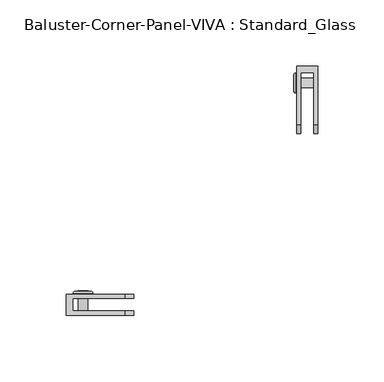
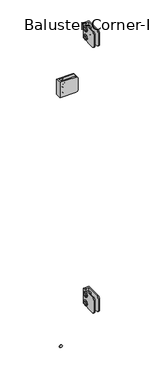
"""IFC4 building model written with IfcOpenShell, lengths in millimetres: railing geometry, Baluster-Corner-Panel-VIVA : Standard_Glass."""

from ifc_helpers import new_model, si_unit, point, frame, origin, place, context, project, spatial, polyline, circle_curve, ellipse_curve, trimmed, outline, extrude, source, transform, mapped, element, save
from ifc_brep_helpers import plane_surface, cylinder_surface, revolved_surface, advanced_brep


def baluster_corner_panel_viva_standard_glass_2aee224f(model_context):
    return source(origin(), model_context, "Body", "SolidModel", [
        extrude(outline(polyline([(139.7205182, 917.178125), (137.673554, 913.6326791), (133.5796257, 913.6326791), (131.5326616, 917.178125), (133.5796257, 920.7235709), (137.673554, 920.7235709), (139.7205182, 917.178125)])), frame((21.7024185, 0.0, 0.0), z_axis=(1.0, 0.0, 0.0), x_axis=(0.0, 1.0, 0.0)), (0.0, 0.0, 1.0), 1.4969696),
        advanced_brep(
        [(36.7665, 139.1720358, 917.178125), (36.7665, 132.081144, 917.178125), (24.0665, 132.081144, 917.178125), (24.0665, 139.1720358, 917.178125), (24.0665, 128.2188008, 917.178125), (24.0665, 143.034379, 917.178125), (23.199388, 137.2826653, 917.178125), (23.199388, 133.9705145, 917.178125), (36.7665, 133.9705145, 917.178125), (36.7665, 137.2826653, 917.178125), (23.2316551, 143.034379, 917.178125), (23.2316551, 128.2188008, 917.178125), (21.9503831, 129.5000728, 917.178125), (21.9503831, 141.7531069, 917.178125), (21.9503831, 131.3279943, 917.178125), (21.9503831, 139.9251854, 917.178125), (23.199388, 131.3279943, 917.178125), (23.199388, 139.9251854, 917.178125)],
        [
            (0, 1, circle_curve(frame((36.7665, 135.6265899, 917.178125), z_axis=(-1.0, 0.0, 0.0), x_axis=(0.0, -1.0, 0.0)), 3.5454459)),
            (1, 2),
            (2, 3, circle_curve(frame((24.0665, 135.6265899, 917.178125), z_axis=(1.0, 0.0, 0.0), x_axis=(0.0, -1.0, 0.0)), 3.5454459)),
            (3, 0),
            (1, 0, circle_curve(frame((36.7665, 135.6265899, 917.178125), z_axis=(-1.0, 0.0, 0.0), x_axis=(0.0, -1.0, 0.0)), 3.5454459)),
            (3, 2, circle_curve(frame((24.0665, 135.6265899, 917.178125), z_axis=(1.0, 0.0, 0.0), x_axis=(0.0, -1.0, 0.0)), 3.5454459)),
            (2, 4),
            (4, 5, circle_curve(frame((24.0665, 135.6265899, 917.178125), z_axis=(1.0, 0.0, 0.0), x_axis=(0.0, -1.0, 0.0)), 7.4077891)),
            (5, 3),
            (5, 4, circle_curve(frame((24.0665, 135.6265899, 917.178125), z_axis=(1.0, 0.0, 0.0), x_axis=(0.0, -1.0, 0.0)), 7.4077891)),
            (6, 7, circle_curve(frame((23.199388, 135.6265899, 917.178125), z_axis=(-1.0, 0.0, 0.0), x_axis=(0.0, -1.0, 0.0)), 1.6560754)),
            (7, 8),
            (8, 9, circle_curve(frame((36.7665, 135.6265899, 917.178125), z_axis=(1.0, 0.0, 0.0), x_axis=(0.0, -1.0, 0.0)), 1.6560754)),
            (9, 6),
            (7, 6, circle_curve(frame((23.199388, 135.6265899, 917.178125), z_axis=(-1.0, 0.0, 0.0), x_axis=(0.0, -1.0, 0.0)), 1.6560754)),
            (9, 8, circle_curve(frame((36.7665, 135.6265899, 917.178125), z_axis=(1.0, 0.0, 0.0), x_axis=(0.0, -1.0, 0.0)), 1.6560754)),
            (10, 11, circle_curve(frame((23.2316551, 135.6265899, 917.178125), z_axis=(-1.0, 0.0, 0.0), x_axis=(0.0, -1.0, 0.0)), 7.4077891)),
            (11, 12, circle_curve(frame((23.2316551, 129.5000728, 917.178125), z_axis=(0.0, 0.0, -1.0), x_axis=(0.0, -1.0, 0.0)), 1.281272)),
            (12, 13, circle_curve(frame((21.9503831, 135.6265899, 917.178125), z_axis=(1.0, 0.0, 0.0), x_axis=(0.0, -1.0, 0.0)), 6.1265171)),
            (13, 10, circle_curve(frame((23.2316551, 141.7531069, 917.178125), z_axis=(0.0, 0.0, -1.0), x_axis=(0.0, 1.0, 0.0)), 1.281272)),
            (11, 10, circle_curve(frame((23.2316551, 135.6265899, 917.178125), z_axis=(-1.0, 0.0, 0.0), x_axis=(0.0, -1.0, 0.0)), 7.4077891)),
            (13, 12, circle_curve(frame((21.9503831, 135.6265899, 917.178125), z_axis=(1.0, 0.0, 0.0), x_axis=(0.0, -1.0, 0.0)), 6.1265171)),
            (12, 14),
            (14, 15, circle_curve(frame((21.9503831, 135.6265899, 917.178125), z_axis=(1.0, 0.0, 0.0), x_axis=(0.0, -1.0, 0.0)), 4.2985955)),
            (15, 13),
            (15, 14, circle_curve(frame((21.9503831, 135.6265899, 917.178125), z_axis=(1.0, 0.0, 0.0), x_axis=(0.0, -1.0, 0.0)), 4.2985955)),
            (4, 11),
            (10, 5),
            (8, 1),
            (0, 9),
            (14, 16),
            (16, 17, circle_curve(frame((23.199388, 135.6265899, 917.178125), z_axis=(1.0, 0.0, 0.0), x_axis=(0.0, -1.0, 0.0)), 4.2985955)),
            (17, 15),
            (17, 16, circle_curve(frame((23.199388, 135.6265899, 917.178125), z_axis=(1.0, 0.0, 0.0), x_axis=(0.0, -1.0, 0.0)), 4.2985955)),
            (16, 7),
            (6, 17),
        ],
        [
            cylinder_surface(frame((27.5632331, 135.6265899, 917.178125), z_axis=(1.0, 0.0, 0.0), x_axis=(0.0, -1.0, 0.0)), 3.5454459),
            plane_surface(frame((24.0665, 135.6265899, 917.178125), z_axis=(1.0, 0.0, 0.0), x_axis=(0.0, -1.0, 0.0))),
            revolved_surface(polyline([(36.7665, 133.9705145, 917.178125), (23.199388, 133.9705145, 917.178125)]), (27.5632331, 135.6265899, 917.178125), (1.0, 0.0, 0.0)),
            revolved_surface(trimmed(ellipse_curve(frame((23.2316551, 129.5000728, 917.178125), z_axis=(0.0, 0.0, 1.0), x_axis=(0.0, -1.0, 0.0)), 1.281272, 1.281272), [point((21.9503831, 129.5000728, 917.178125))], [point((23.2316551, 128.2188008, 917.178125))], True, "CARTESIAN"), (27.5632331, 135.6265899, 917.178125), (1.0, 0.0, 0.0)),
            plane_surface(frame((21.9503831, 135.6265899, 917.178125), z_axis=(-1.0, 0.0, 0.0), x_axis=(0.0, -1.0, 0.0))),
            cylinder_surface(frame((27.5632331, 135.6265899, 917.178125), z_axis=(1.0, 0.0, 0.0), x_axis=(0.0, -1.0, 0.0)), 7.4077891),
            plane_surface(frame((36.7665, 135.6265899, 917.178125), z_axis=(1.0, 0.0, 0.0), x_axis=(0.0, -1.0, 0.0))),
            revolved_surface(polyline([(23.199388, 131.3279944, 917.178125), (21.9503831, 131.3279944, 917.178125)]), (27.5632331, 135.6265899, 917.178125), (1.0, 0.0, 0.0)),
            plane_surface(frame((23.199388, 135.6265899, 917.178125), z_axis=(-1.0, 0.0, 0.0), x_axis=(0.0, -1.0, 0.0))),
        ],
        [
            (0, [[1, 2, 3, 4]]),
            (0, [[5, -4, 6, -2]]),
            (1, [[-3, 7, 8, 9]]),
            (1, [[-6, -9, 10, -7]]),
            (2, [[11, 12, 13, 14]]),
            (2, [[15, -14, 16, -12]]),
            (3, [[17, 18, 19, 20]]),
            (3, [[21, -20, 22, -18]]),
            (4, [[-19, 23, 24, 25]]),
            (4, [[-22, -25, 26, -23]]),
            (5, [[-8, 27, -17, 28]]),
            (5, [[-10, -28, -21, -27]]),
            (6, [[-13, 29, -1, 30]]),
            (6, [[-16, -30, -5, -29]]),
            (7, [[-24, 31, 32, 33]]),
            (7, [[-26, -33, 34, -31]]),
            (8, [[-32, 35, -11, 36]]),
            (8, [[-34, -36, -15, -35]]),
        ],
    ),
        advanced_brep(
        [(36.7665, 139.1720358, 892.571875), (36.7665, 132.081144, 892.571875), (24.0665, 132.081144, 892.571875), (24.0665, 139.1720358, 892.571875), (24.0665, 128.2188008, 892.571875), (24.0665, 143.034379, 892.571875), (23.199388, 137.2826653, 892.571875), (23.199388, 133.9705145, 892.571875), (36.7665, 133.9705145, 892.571875), (36.7665, 137.2826653, 892.571875), (23.2316551, 143.034379, 892.571875), (23.2316551, 128.2188008, 892.571875), (21.9503831, 129.5000728, 892.571875), (21.9503831, 141.7531069, 892.571875), (21.9503831, 131.3279943, 892.571875), (21.9503831, 139.9251854, 892.571875), (23.199388, 131.3279943, 892.571875), (23.199388, 139.9251854, 892.571875)],
        [
            (0, 1, circle_curve(frame((36.7665, 135.6265899, 892.571875), z_axis=(-1.0, 0.0, 0.0), x_axis=(0.0, -1.0, 0.0)), 3.5454459)),
            (1, 2),
            (2, 3, circle_curve(frame((24.0665, 135.6265899, 892.571875), z_axis=(1.0, 0.0, 0.0), x_axis=(0.0, -1.0, 0.0)), 3.5454459)),
            (3, 0),
            (1, 0, circle_curve(frame((36.7665, 135.6265899, 892.571875), z_axis=(-1.0, 0.0, 0.0), x_axis=(0.0, -1.0, 0.0)), 3.5454459)),
            (3, 2, circle_curve(frame((24.0665, 135.6265899, 892.571875), z_axis=(1.0, 0.0, 0.0), x_axis=(0.0, -1.0, 0.0)), 3.5454459)),
            (2, 4),
            (4, 5, circle_curve(frame((24.0665, 135.6265899, 892.571875), z_axis=(1.0, 0.0, 0.0), x_axis=(0.0, -1.0, 0.0)), 7.4077891)),
            (5, 3),
            (5, 4, circle_curve(frame((24.0665, 135.6265899, 892.571875), z_axis=(1.0, 0.0, 0.0), x_axis=(0.0, -1.0, 0.0)), 7.4077891)),
            (6, 7, circle_curve(frame((23.199388, 135.6265899, 892.571875), z_axis=(-1.0, 0.0, 0.0), x_axis=(0.0, -1.0, 0.0)), 1.6560754)),
            (7, 8),
            (8, 9, circle_curve(frame((36.7665, 135.6265899, 892.571875), z_axis=(1.0, 0.0, 0.0), x_axis=(0.0, -1.0, 0.0)), 1.6560754)),
            (9, 6),
            (7, 6, circle_curve(frame((23.199388, 135.6265899, 892.571875), z_axis=(-1.0, 0.0, 0.0), x_axis=(0.0, -1.0, 0.0)), 1.6560754)),
            (9, 8, circle_curve(frame((36.7665, 135.6265899, 892.571875), z_axis=(1.0, 0.0, 0.0), x_axis=(0.0, -1.0, 0.0)), 1.6560754)),
            (10, 11, circle_curve(frame((23.2316551, 135.6265899, 892.571875), z_axis=(-1.0, 0.0, 0.0), x_axis=(0.0, -1.0, 0.0)), 7.4077891)),
            (11, 12, circle_curve(frame((23.2316551, 129.5000728, 892.571875), z_axis=(0.0, 0.0, -1.0), x_axis=(0.0, -1.0, 0.0)), 1.281272)),
            (12, 13, circle_curve(frame((21.9503831, 135.6265899, 892.571875), z_axis=(1.0, 0.0, 0.0), x_axis=(0.0, -1.0, 0.0)), 6.1265171)),
            (13, 10, circle_curve(frame((23.2316551, 141.7531069, 892.571875), z_axis=(0.0, 0.0, -1.0), x_axis=(0.0, 1.0, 0.0)), 1.281272)),
            (11, 10, circle_curve(frame((23.2316551, 135.6265899, 892.571875), z_axis=(-1.0, 0.0, 0.0), x_axis=(0.0, -1.0, 0.0)), 7.4077891)),
            (13, 12, circle_curve(frame((21.9503831, 135.6265899, 892.571875), z_axis=(1.0, 0.0, 0.0), x_axis=(0.0, -1.0, 0.0)), 6.1265171)),
            (12, 14),
            (14, 15, circle_curve(frame((21.9503831, 135.6265899, 892.571875), z_axis=(1.0, 0.0, 0.0), x_axis=(0.0, -1.0, 0.0)), 4.2985955)),
            (15, 13),
            (15, 14, circle_curve(frame((21.9503831, 135.6265899, 892.571875), z_axis=(1.0, 0.0, 0.0), x_axis=(0.0, -1.0, 0.0)), 4.2985955)),
            (8, 1),
            (0, 9),
            (4, 11),
            (10, 5),
            (14, 16),
            (16, 17, circle_curve(frame((23.199388, 135.6265899, 892.571875), z_axis=(1.0, 0.0, 0.0), x_axis=(0.0, -1.0, 0.0)), 4.2985955)),
            (17, 15),
            (17, 16, circle_curve(frame((23.199388, 135.6265899, 892.571875), z_axis=(1.0, 0.0, 0.0), x_axis=(0.0, -1.0, 0.0)), 4.2985955)),
            (16, 7),
            (6, 17),
        ],
        [
            cylinder_surface(frame((27.5632331, 135.6265899, 892.571875), z_axis=(1.0, 0.0, 0.0), x_axis=(0.0, -1.0, 0.0)), 3.5454459),
            plane_surface(frame((24.0665, 135.6265899, 892.571875), z_axis=(1.0, 0.0, 0.0), x_axis=(0.0, -1.0, 0.0))),
            revolved_surface(polyline([(36.7665, 133.9705145, 892.571875), (23.199388, 133.9705145, 892.571875)]), (27.5632331, 135.6265899, 892.571875), (1.0, 0.0, 0.0)),
            revolved_surface(trimmed(ellipse_curve(frame((23.2316551, 129.5000728, 892.571875), z_axis=(0.0, 0.0, 1.0), x_axis=(0.0, -1.0, 0.0)), 1.281272, 1.281272), [point((21.9503831, 129.5000728, 892.571875))], [point((23.2316551, 128.2188008, 892.571875))], True, "CARTESIAN"), (27.5632331, 135.6265899, 892.571875), (1.0, 0.0, 0.0)),
            plane_surface(frame((21.9503831, 135.6265899, 892.571875), z_axis=(-1.0, 0.0, 0.0), x_axis=(0.0, -1.0, 0.0))),
            plane_surface(frame((36.7665, 135.6265899, 892.571875), z_axis=(1.0, 0.0, 0.0), x_axis=(0.0, -1.0, 0.0))),
            cylinder_surface(frame((27.5632331, 135.6265899, 892.571875), z_axis=(1.0, 0.0, 0.0), x_axis=(0.0, -1.0, 0.0)), 7.4077891),
            revolved_surface(polyline([(23.199388, 131.3279944, 892.571875), (21.9503831, 131.3279944, 892.571875)]), (27.5632331, 135.6265899, 892.571875), (1.0, 0.0, 0.0)),
            plane_surface(frame((23.199388, 135.6265899, 892.571875), z_axis=(-1.0, 0.0, 0.0), x_axis=(0.0, -1.0, 0.0))),
        ],
        [
            (0, [[1, 2, 3, 4]]),
            (0, [[5, -4, 6, -2]]),
            (1, [[-3, 7, 8, 9]]),
            (1, [[-6, -9, 10, -7]]),
            (2, [[11, 12, 13, 14]]),
            (2, [[15, -14, 16, -12]]),
            (3, [[17, 18, 19, 20]]),
            (3, [[21, -20, 22, -18]]),
            (4, [[-19, 23, 24, 25]]),
            (4, [[-22, -25, 26, -23]]),
            (5, [[-13, 27, -1, 28]]),
            (5, [[-16, -28, -5, -27]]),
            (6, [[-8, 29, -17, 30]]),
            (6, [[-10, -30, -21, -29]]),
            (7, [[-24, 31, 32, 33]]),
            (7, [[-26, -33, 34, -31]]),
            (8, [[-32, 35, -11, 36]]),
            (8, [[-34, -36, -15, -35]]),
        ],
    ),
        extrude(outline(polyline([(139.7205182, 892.571875), (137.673554, 889.0264291), (133.5796257, 889.0264291), (131.5326616, 892.571875), (133.5796257, 896.1173209), (137.673554, 896.1173209), (139.7205182, 892.571875)])), frame((21.7024185, 0.0, 0.0), z_axis=(1.0, 0.0, 0.0), x_axis=(0.0, 1.0, 0.0)), (0.0, 0.0, 1.0), 1.4969696),
        advanced_brep(
        [(24.0665, 148.2599347, 927.1), (24.0665, 148.2599347, 882.65), (24.0665, 103.8099347, 882.65), (24.0665, 97.4599347, 889.0), (24.0665, 97.4599347, 920.75), (24.0665, 103.8099347, 927.1), (39.9415, 148.2599347, 927.1), (39.9415, 103.8099347, 927.1), (39.9415, 97.4599347, 920.75), (39.9415, 97.4599347, 889.0), (39.9415, 103.8099347, 882.65), (39.9415, 148.2599347, 882.65), (36.7665, 103.8099347, 882.65), (36.7665, 143.5418543, 882.65), (27.2415, 143.5418543, 882.65), (27.2415, 103.8099347, 882.65), (36.7665, 143.5418543, 927.1), (27.2415, 143.5418543, 927.1), (27.2415, 103.8099347, 927.1), (27.2415, 97.4599347, 920.75), (27.2415, 97.4599347, 889.0), (36.7665, 97.4599347, 889.0), (36.7665, 97.4599347, 920.75), (36.7665, 103.8099347, 927.1)],
        [
            (0, 1),
            (1, 2),
            (2, 3, circle_curve(frame((24.0665, 103.8099347, 889.0), z_axis=(-1.0, 0.0, 0.0), x_axis=(0.0, -1.0, 0.0)), 6.35)),
            (3, 4),
            (4, 5, circle_curve(frame((24.0665, 103.8099347, 920.75), z_axis=(-1.0, 0.0, 0.0), x_axis=(0.0, -1.0, 0.0)), 6.35)),
            (5, 0),
            (6, 7),
            (7, 8, circle_curve(frame((39.9415, 103.8099347, 920.75), z_axis=(1.0, 0.0, 0.0), x_axis=(0.0, -1.0, 0.0)), 6.35)),
            (8, 9),
            (9, 10, circle_curve(frame((39.9415, 103.8099347, 889.0), z_axis=(1.0, 0.0, 0.0), x_axis=(0.0, -1.0, 0.0)), 6.35)),
            (10, 11),
            (11, 6),
            (0, 6),
            (11, 1),
            (10, 12),
            (12, 13),
            (13, 14),
            (14, 15),
            (15, 2),
            (13, 16),
            (16, 17),
            (17, 14),
            (17, 18),
            (18, 19, circle_curve(frame((27.2415, 103.8099347, 920.75), z_axis=(1.0, 0.0, 0.0), x_axis=(0.0, -1.0, 0.0)), 6.35)),
            (19, 20),
            (20, 15, circle_curve(frame((27.2415, 103.8099347, 889.0), z_axis=(1.0, 0.0, 0.0), x_axis=(0.0, -1.0, 0.0)), 6.35)),
            (12, 21, circle_curve(frame((36.7665, 103.8099347, 889.0), z_axis=(-1.0, 0.0, 0.0), x_axis=(0.0, -1.0, 0.0)), 6.35)),
            (21, 22),
            (22, 23, circle_curve(frame((36.7665, 103.8099347, 920.75), z_axis=(-1.0, 0.0, 0.0), x_axis=(0.0, -1.0, 0.0)), 6.35)),
            (23, 16),
            (20, 3),
            (9, 21),
            (19, 4),
            (8, 22),
            (18, 5),
            (7, 23),
        ],
        [
            plane_surface(frame((24.0665, 148.2599347, 882.65), z_axis=(-1.0, 0.0, 0.0), x_axis=(0.0, 0.0, -1.0))),
            plane_surface(frame((39.9415, 148.2599347, 882.65), z_axis=(1.0, 0.0, 0.0), x_axis=(0.0, 0.0, 1.0))),
            plane_surface(frame((24.0665, 148.2599347, 927.1), z_axis=(0.0, 1.0, 0.0), x_axis=(1.0, 0.0, 0.0))),
            plane_surface(frame((24.0665, 148.2599347, 882.65), z_axis=(0.0, 0.0, -1.0), x_axis=(1.0, 0.0, 0.0))),
            plane_surface(frame((36.7665, 143.5418543, 939.8), z_axis=(0.0, -1.0, 0.0), x_axis=(0.0, 0.0, -1.0))),
            plane_surface(frame((27.2415, 143.5418543, 939.8), z_axis=(1.0, 0.0, 0.0), x_axis=(0.0, 0.0, -1.0))),
            plane_surface(frame((36.7665, 84.7599347, 939.8), z_axis=(-1.0, 0.0, 0.0), x_axis=(0.0, 0.0, -1.0))),
            cylinder_surface(frame((39.9415, 103.8099347, 889.0), z_axis=(-1.0, 0.0, 0.0), x_axis=(0.0, -1.0, 0.0)), 6.35),
            plane_surface(frame((24.0665, 97.4599347, 889.0), z_axis=(0.0, -1.0, 0.0), x_axis=(1.0, 0.0, 0.0))),
            cylinder_surface(frame((39.9415, 103.8099347, 920.75), z_axis=(-1.0, 0.0, 0.0), x_axis=(0.0, -1.0, 0.0)), 6.35),
            plane_surface(frame((24.0665, 103.8099347, 927.1), z_axis=(0.0, 0.0, 1.0), x_axis=(1.0, 0.0, 0.0))),
        ],
        [
            (0, [[1, 2, 3, 4, 5, 6]]),
            (1, [[7, 8, 9, 10, 11, 12]]),
            (2, [[-1, 13, -12, 14]]),
            (3, [[-2, -14, -11, 15, 16, 17, 18, 19]]),
            (4, [[20, 21, 22, -17]]),
            (5, [[-22, 23, 24, 25, 26, -18]]),
            (6, [[-20, -16, 27, 28, 29, 30]]),
            (7, [[-3, -19, -26, 31]]),
            (7, [[-10, 32, -27, -15]]),
            (8, [[-4, -31, -25, 33]]),
            (8, [[-9, 34, -28, -32]]),
            (9, [[-5, -33, -24, 35]]),
            (9, [[-8, 36, -29, -34]]),
            (10, [[-6, -35, -23, -21, -30, -36, -7, -13]]),
        ],
    ),
        extrude(outline(polyline([(139.7205182, 138.7358896), (137.673554, 135.1904437), (133.5796257, 135.1904437), (131.5326616, 138.7358896), (133.5796257, 142.2813355), (137.673554, 142.2813355), (139.7205182, 138.7358896)])), frame((21.7024185, 0.0, 0.0), z_axis=(1.0, 0.0, 0.0), x_axis=(0.0, 1.0, 0.0)), (0.0, 0.0, 1.0), 1.4969696),
        advanced_brep(
        [(36.7665, 139.1720358, 138.7358896), (36.7665, 132.081144, 138.7358896), (24.0665, 132.081144, 138.7358896), (24.0665, 139.1720358, 138.7358896), (24.0665, 128.2188008, 138.7358896), (24.0665, 143.034379, 138.7358896), (23.199388, 137.2826653, 138.7358896), (23.199388, 133.9705145, 138.7358896), (36.7665, 133.9705145, 138.7358896), (36.7665, 137.2826653, 138.7358896), (23.2316551, 143.034379, 138.7358896), (23.2316551, 128.2188008, 138.7358896), (21.9503831, 129.5000728, 138.7358896), (21.9503831, 141.7531069, 138.7358896), (21.9503831, 131.3279943, 138.7358896), (21.9503831, 139.9251854, 138.7358896), (23.199388, 131.3279943, 138.7358896), (23.199388, 139.9251854, 138.7358896)],
        [
            (0, 1, circle_curve(frame((36.7665, 135.6265899, 138.7358896), z_axis=(-1.0, 0.0, 0.0), x_axis=(0.0, -1.0, 0.0)), 3.5454459)),
            (1, 2),
            (2, 3, circle_curve(frame((24.0665, 135.6265899, 138.7358896), z_axis=(1.0, 0.0, 0.0), x_axis=(0.0, -1.0, 0.0)), 3.5454459)),
            (3, 0),
            (1, 0, circle_curve(frame((36.7665, 135.6265899, 138.7358896), z_axis=(-1.0, 0.0, 0.0), x_axis=(0.0, -1.0, 0.0)), 3.5454459)),
            (3, 2, circle_curve(frame((24.0665, 135.6265899, 138.7358896), z_axis=(1.0, 0.0, 0.0), x_axis=(0.0, -1.0, 0.0)), 3.5454459)),
            (2, 4),
            (4, 5, circle_curve(frame((24.0665, 135.6265899, 138.7358896), z_axis=(1.0, 0.0, 0.0), x_axis=(0.0, -1.0, 0.0)), 7.4077891)),
            (5, 3),
            (5, 4, circle_curve(frame((24.0665, 135.6265899, 138.7358896), z_axis=(1.0, 0.0, 0.0), x_axis=(0.0, -1.0, 0.0)), 7.4077891)),
            (6, 7, circle_curve(frame((23.199388, 135.6265899, 138.7358896), z_axis=(-1.0, 0.0, 0.0), x_axis=(0.0, -1.0, 0.0)), 1.6560754)),
            (7, 8),
            (8, 9, circle_curve(frame((36.7665, 135.6265899, 138.7358896), z_axis=(1.0, 0.0, 0.0), x_axis=(0.0, -1.0, 0.0)), 1.6560754)),
            (9, 6),
            (7, 6, circle_curve(frame((23.199388, 135.6265899, 138.7358896), z_axis=(-1.0, 0.0, 0.0), x_axis=(0.0, -1.0, 0.0)), 1.6560754)),
            (9, 8, circle_curve(frame((36.7665, 135.6265899, 138.7358896), z_axis=(1.0, 0.0, 0.0), x_axis=(0.0, -1.0, 0.0)), 1.6560754)),
            (10, 11, circle_curve(frame((23.2316551, 135.6265899, 138.7358896), z_axis=(-1.0, 0.0, 0.0), x_axis=(0.0, -1.0, 0.0)), 7.4077891)),
            (11, 12, circle_curve(frame((23.2316551, 129.5000728, 138.7358896), z_axis=(0.0, 0.0, -1.0), x_axis=(0.0, -1.0, 0.0)), 1.281272)),
            (12, 13, circle_curve(frame((21.9503831, 135.6265899, 138.7358896), z_axis=(1.0, 0.0, 0.0), x_axis=(0.0, -1.0, 0.0)), 6.1265171)),
            (13, 10, circle_curve(frame((23.2316551, 141.7531069, 138.7358896), z_axis=(0.0, 0.0, -1.0), x_axis=(0.0, 1.0, 0.0)), 1.281272)),
            (11, 10, circle_curve(frame((23.2316551, 135.6265899, 138.7358896), z_axis=(-1.0, 0.0, 0.0), x_axis=(0.0, -1.0, 0.0)), 7.4077891)),
            (13, 12, circle_curve(frame((21.9503831, 135.6265899, 138.7358896), z_axis=(1.0, 0.0, 0.0), x_axis=(0.0, -1.0, 0.0)), 6.1265171)),
            (12, 14),
            (14, 15, circle_curve(frame((21.9503831, 135.6265899, 138.7358896), z_axis=(1.0, 0.0, 0.0), x_axis=(0.0, -1.0, 0.0)), 4.2985955)),
            (15, 13),
            (15, 14, circle_curve(frame((21.9503831, 135.6265899, 138.7358896), z_axis=(1.0, 0.0, 0.0), x_axis=(0.0, -1.0, 0.0)), 4.2985955)),
            (4, 11),
            (10, 5),
            (8, 1),
            (0, 9),
            (14, 16),
            (16, 17, circle_curve(frame((23.199388, 135.6265899, 138.7358896), z_axis=(1.0, 0.0, 0.0), x_axis=(0.0, -1.0, 0.0)), 4.2985955)),
            (17, 15),
            (17, 16, circle_curve(frame((23.199388, 135.6265899, 138.7358896), z_axis=(1.0, 0.0, 0.0), x_axis=(0.0, -1.0, 0.0)), 4.2985955)),
            (16, 7),
            (6, 17),
        ],
        [
            cylinder_surface(frame((27.5632331, 135.6265899, 138.7358896), z_axis=(1.0, 0.0, 0.0), x_axis=(0.0, -1.0, 0.0)), 3.5454459),
            plane_surface(frame((24.0665, 135.6265899, 138.7358896), z_axis=(1.0, 0.0, 0.0), x_axis=(0.0, -1.0, 0.0))),
            revolved_surface(polyline([(36.7665, 133.9705145, 138.7358896), (23.199388, 133.9705145, 138.7358896)]), (27.5632331, 135.6265899, 138.7358896), (1.0, 0.0, 0.0)),
            revolved_surface(trimmed(ellipse_curve(frame((23.2316551, 129.5000728, 138.7358896), z_axis=(0.0, 0.0, 1.0), x_axis=(0.0, -1.0, 0.0)), 1.281272, 1.281272), [point((21.9503831, 129.5000728, 138.7358896))], [point((23.2316551, 128.2188008, 138.7358896))], True, "CARTESIAN"), (27.5632331, 135.6265899, 138.7358896), (1.0, 0.0, 0.0)),
            plane_surface(frame((21.9503831, 135.6265899, 138.7358896), z_axis=(-1.0, 0.0, 0.0), x_axis=(0.0, -1.0, 0.0))),
            cylinder_surface(frame((27.5632331, 135.6265899, 138.7358896), z_axis=(1.0, 0.0, 0.0), x_axis=(0.0, -1.0, 0.0)), 7.4077891),
            plane_surface(frame((36.7665, 135.6265899, 138.7358896), z_axis=(1.0, 0.0, 0.0), x_axis=(0.0, -1.0, 0.0))),
            revolved_surface(polyline([(23.199388, 131.3279944, 138.7358896), (21.9503831, 131.3279944, 138.7358896)]), (27.5632331, 135.6265899, 138.7358896), (1.0, 0.0, 0.0)),
            plane_surface(frame((23.199388, 135.6265899, 138.7358896), z_axis=(-1.0, 0.0, 0.0), x_axis=(0.0, -1.0, 0.0))),
        ],
        [
            (0, [[1, 2, 3, 4]]),
            (0, [[5, -4, 6, -2]]),
            (1, [[-3, 7, 8, 9]]),
            (1, [[-6, -9, 10, -7]]),
            (2, [[11, 12, 13, 14]]),
            (2, [[15, -14, 16, -12]]),
            (3, [[17, 18, 19, 20]]),
            (3, [[21, -20, 22, -18]]),
            (4, [[-19, 23, 24, 25]]),
            (4, [[-22, -25, 26, -23]]),
            (5, [[-8, 27, -17, 28]]),
            (5, [[-10, -28, -21, -27]]),
            (6, [[-13, 29, -1, 30]]),
            (6, [[-16, -30, -5, -29]]),
            (7, [[-24, 31, 32, 33]]),
            (7, [[-26, -33, 34, -31]]),
            (8, [[-32, 35, -11, 36]]),
            (8, [[-34, -36, -15, -35]]),
        ],
    ),
        advanced_brep(
        [(36.7665, 139.1720358, 114.1296396), (36.7665, 132.081144, 114.1296396), (24.0665, 132.081144, 114.1296396), (24.0665, 139.1720358, 114.1296396), (24.0665, 128.2188008, 114.1296396), (24.0665, 143.034379, 114.1296396), (23.199388, 137.2826653, 114.1296396), (23.199388, 133.9705145, 114.1296396), (36.7665, 133.9705145, 114.1296396), (36.7665, 137.2826653, 114.1296396), (23.2316551, 143.034379, 114.1296396), (23.2316551, 128.2188008, 114.1296396), (21.9503831, 129.5000728, 114.1296396), (21.9503831, 141.7531069, 114.1296396), (21.9503831, 131.3279943, 114.1296396), (21.9503831, 139.9251854, 114.1296396), (23.199388, 131.3279943, 114.1296396), (23.199388, 139.9251854, 114.1296396)],
        [
            (0, 1, circle_curve(frame((36.7665, 135.6265899, 114.1296396), z_axis=(-1.0, 0.0, 0.0), x_axis=(0.0, -1.0, 0.0)), 3.5454459)),
            (1, 2),
            (2, 3, circle_curve(frame((24.0665, 135.6265899, 114.1296396), z_axis=(1.0, 0.0, 0.0), x_axis=(0.0, -1.0, 0.0)), 3.5454459)),
            (3, 0),
            (1, 0, circle_curve(frame((36.7665, 135.6265899, 114.1296396), z_axis=(-1.0, 0.0, 0.0), x_axis=(0.0, -1.0, 0.0)), 3.5454459)),
            (3, 2, circle_curve(frame((24.0665, 135.6265899, 114.1296396), z_axis=(1.0, 0.0, 0.0), x_axis=(0.0, -1.0, 0.0)), 3.5454459)),
            (2, 4),
            (4, 5, circle_curve(frame((24.0665, 135.6265899, 114.1296396), z_axis=(1.0, 0.0, 0.0), x_axis=(0.0, -1.0, 0.0)), 7.4077891)),
            (5, 3),
            (5, 4, circle_curve(frame((24.0665, 135.6265899, 114.1296396), z_axis=(1.0, 0.0, 0.0), x_axis=(0.0, -1.0, 0.0)), 7.4077891)),
            (6, 7, circle_curve(frame((23.199388, 135.6265899, 114.1296396), z_axis=(-1.0, 0.0, 0.0), x_axis=(0.0, -1.0, 0.0)), 1.6560754)),
            (7, 8),
            (8, 9, circle_curve(frame((36.7665, 135.6265899, 114.1296396), z_axis=(1.0, 0.0, 0.0), x_axis=(0.0, -1.0, 0.0)), 1.6560754)),
            (9, 6),
            (7, 6, circle_curve(frame((23.199388, 135.6265899, 114.1296396), z_axis=(-1.0, 0.0, 0.0), x_axis=(0.0, -1.0, 0.0)), 1.6560754)),
            (9, 8, circle_curve(frame((36.7665, 135.6265899, 114.1296396), z_axis=(1.0, 0.0, 0.0), x_axis=(0.0, -1.0, 0.0)), 1.6560754)),
            (10, 11, circle_curve(frame((23.2316551, 135.6265899, 114.1296396), z_axis=(-1.0, 0.0, 0.0), x_axis=(0.0, -1.0, 0.0)), 7.4077891)),
            (11, 12, circle_curve(frame((23.2316551, 129.5000728, 114.1296396), z_axis=(0.0, 0.0, -1.0), x_axis=(0.0, -1.0, 0.0)), 1.281272)),
            (12, 13, circle_curve(frame((21.9503831, 135.6265899, 114.1296396), z_axis=(1.0, 0.0, 0.0), x_axis=(0.0, -1.0, 0.0)), 6.1265171)),
            (13, 10, circle_curve(frame((23.2316551, 141.7531069, 114.1296396), z_axis=(0.0, 0.0, -1.0), x_axis=(0.0, 1.0, 0.0)), 1.281272)),
            (11, 10, circle_curve(frame((23.2316551, 135.6265899, 114.1296396), z_axis=(-1.0, 0.0, 0.0), x_axis=(0.0, -1.0, 0.0)), 7.4077891)),
            (13, 12, circle_curve(frame((21.9503831, 135.6265899, 114.1296396), z_axis=(1.0, 0.0, 0.0), x_axis=(0.0, -1.0, 0.0)), 6.1265171)),
            (12, 14),
            (14, 15, circle_curve(frame((21.9503831, 135.6265899, 114.1296396), z_axis=(1.0, 0.0, 0.0), x_axis=(0.0, -1.0, 0.0)), 4.2985955)),
            (15, 13),
            (15, 14, circle_curve(frame((21.9503831, 135.6265899, 114.1296396), z_axis=(1.0, 0.0, 0.0), x_axis=(0.0, -1.0, 0.0)), 4.2985955)),
            (8, 1),
            (0, 9),
            (4, 11),
            (10, 5),
            (14, 16),
            (16, 17, circle_curve(frame((23.199388, 135.6265899, 114.1296396), z_axis=(1.0, 0.0, 0.0), x_axis=(0.0, -1.0, 0.0)), 4.2985955)),
            (17, 15),
            (17, 16, circle_curve(frame((23.199388, 135.6265899, 114.1296396), z_axis=(1.0, 0.0, 0.0), x_axis=(0.0, -1.0, 0.0)), 4.2985955)),
            (16, 7),
            (6, 17),
        ],
        [
            cylinder_surface(frame((27.5632331, 135.6265899, 114.1296396), z_axis=(1.0, 0.0, 0.0), x_axis=(0.0, -1.0, 0.0)), 3.5454459),
            plane_surface(frame((24.0665, 135.6265899, 114.1296396), z_axis=(1.0, 0.0, 0.0), x_axis=(0.0, -1.0, 0.0))),
            revolved_surface(polyline([(36.7665, 133.9705145, 114.1296396), (23.199388, 133.9705145, 114.1296396)]), (27.5632331, 135.6265899, 114.1296396), (1.0, 0.0, 0.0)),
            revolved_surface(trimmed(ellipse_curve(frame((23.2316551, 129.5000728, 114.1296396), z_axis=(0.0, 0.0, 1.0), x_axis=(0.0, -1.0, 0.0)), 1.281272, 1.281272), [point((21.9503831, 129.5000728, 114.1296396))], [point((23.2316551, 128.2188008, 114.1296396))], True, "CARTESIAN"), (27.5632331, 135.6265899, 114.1296396), (1.0, 0.0, 0.0)),
            plane_surface(frame((21.9503831, 135.6265899, 114.1296396), z_axis=(-1.0, 0.0, 0.0), x_axis=(0.0, -1.0, 0.0))),
            plane_surface(frame((36.7665, 135.6265899, 114.1296396), z_axis=(1.0, 0.0, 0.0), x_axis=(0.0, -1.0, 0.0))),
            cylinder_surface(frame((27.5632331, 135.6265899, 114.1296396), z_axis=(1.0, 0.0, 0.0), x_axis=(0.0, -1.0, 0.0)), 7.4077891),
            revolved_surface(polyline([(23.199388, 131.3279944, 114.1296396), (21.9503831, 131.3279944, 114.1296396)]), (27.5632331, 135.6265899, 114.1296396), (1.0, 0.0, 0.0)),
            plane_surface(frame((23.199388, 135.6265899, 114.1296396), z_axis=(-1.0, 0.0, 0.0), x_axis=(0.0, -1.0, 0.0))),
        ],
        [
            (0, [[1, 2, 3, 4]]),
            (0, [[5, -4, 6, -2]]),
            (1, [[-3, 7, 8, 9]]),
            (1, [[-6, -9, 10, -7]]),
            (2, [[11, 12, 13, 14]]),
            (2, [[15, -14, 16, -12]]),
            (3, [[17, 18, 19, 20]]),
            (3, [[21, -20, 22, -18]]),
            (4, [[-19, 23, 24, 25]]),
            (4, [[-22, -25, 26, -23]]),
            (5, [[-13, 27, -1, 28]]),
            (5, [[-16, -28, -5, -27]]),
            (6, [[-8, 29, -17, 30]]),
            (6, [[-10, -30, -21, -29]]),
            (7, [[-24, 31, 32, 33]]),
            (7, [[-26, -33, 34, -31]]),
            (8, [[-32, 35, -11, 36]]),
            (8, [[-34, -36, -15, -35]]),
        ],
    ),
        extrude(outline(polyline([(139.7205182, 114.1296396), (137.673554, 110.5841937), (133.5796257, 110.5841937), (131.5326616, 114.1296396), (133.5796257, 117.6750855), (137.673554, 117.6750855), (139.7205182, 114.1296396)])), frame((21.7024185, 0.0, 0.0), z_axis=(1.0, 0.0, 0.0), x_axis=(0.0, 1.0, 0.0)), (0.0, 0.0, 1.0), 1.4969696),
        advanced_brep(
        [(24.0665, 148.2599347, 148.6577646), (24.0665, 148.2599347, 104.2077646), (24.0665, 103.8099347, 104.2077646), (24.0665, 97.4599347, 110.5577646), (24.0665, 97.4599347, 142.3077646), (24.0665, 103.8099347, 148.6577646), (39.9415, 148.2599347, 148.6577646), (39.9415, 103.8099347, 148.6577646), (39.9415, 97.4599347, 142.3077646), (39.9415, 97.4599347, 110.5577646), (39.9415, 103.8099347, 104.2077646), (39.9415, 148.2599347, 104.2077646), (36.7665, 103.8099347, 104.2077646), (36.7665, 143.5418543, 104.2077646), (27.2415, 143.5418543, 104.2077646), (27.2415, 103.8099347, 104.2077646), (36.7665, 143.5418543, 148.6577646), (27.2415, 143.5418543, 148.6577646), (27.2415, 103.8099347, 148.6577646), (27.2415, 97.4599347, 142.3077646), (27.2415, 97.4599347, 110.5577646), (36.7665, 97.4599347, 110.5577646), (36.7665, 97.4599347, 142.3077646), (36.7665, 103.8099347, 148.6577646)],
        [
            (0, 1),
            (1, 2),
            (2, 3, circle_curve(frame((24.0665, 103.8099347, 110.5577646), z_axis=(-1.0, 0.0, 0.0), x_axis=(0.0, -1.0, 0.0)), 6.35)),
            (3, 4),
            (4, 5, circle_curve(frame((24.0665, 103.8099347, 142.3077646), z_axis=(-1.0, 0.0, 0.0), x_axis=(0.0, -1.0, 0.0)), 6.35)),
            (5, 0),
            (6, 7),
            (7, 8, circle_curve(frame((39.9415, 103.8099347, 142.3077646), z_axis=(1.0, 0.0, 0.0), x_axis=(0.0, -1.0, 0.0)), 6.35)),
            (8, 9),
            (9, 10, circle_curve(frame((39.9415, 103.8099347, 110.5577646), z_axis=(1.0, 0.0, 0.0), x_axis=(0.0, -1.0, 0.0)), 6.35)),
            (10, 11),
            (11, 6),
            (0, 6),
            (11, 1),
            (10, 12),
            (12, 13),
            (13, 14),
            (14, 15),
            (15, 2),
            (13, 16),
            (16, 17),
            (17, 14),
            (17, 18),
            (18, 19, circle_curve(frame((27.2415, 103.8099347, 142.3077646), z_axis=(1.0, 0.0, 0.0), x_axis=(0.0, -1.0, 0.0)), 6.35)),
            (19, 20),
            (20, 15, circle_curve(frame((27.2415, 103.8099347, 110.5577646), z_axis=(1.0, 0.0, 0.0), x_axis=(0.0, -1.0, 0.0)), 6.35)),
            (12, 21, circle_curve(frame((36.7665, 103.8099347, 110.5577646), z_axis=(-1.0, 0.0, 0.0), x_axis=(0.0, -1.0, 0.0)), 6.35)),
            (21, 22),
            (22, 23, circle_curve(frame((36.7665, 103.8099347, 142.3077646), z_axis=(-1.0, 0.0, 0.0), x_axis=(0.0, -1.0, 0.0)), 6.35)),
            (23, 16),
            (20, 3),
            (9, 21),
            (19, 4),
            (8, 22),
            (18, 5),
            (7, 23),
        ],
        [
            plane_surface(frame((24.0665, 148.2599347, 104.2077646), z_axis=(-1.0, 0.0, 0.0), x_axis=(0.0, 0.0, -1.0))),
            plane_surface(frame((39.9415, 148.2599347, 104.2077646), z_axis=(1.0, 0.0, 0.0), x_axis=(0.0, 0.0, 1.0))),
            plane_surface(frame((24.0665, 148.2599347, 148.6577646), z_axis=(0.0, 1.0, 0.0), x_axis=(1.0, 0.0, 0.0))),
            plane_surface(frame((24.0665, 148.2599347, 104.2077646), z_axis=(0.0, 0.0, -1.0), x_axis=(1.0, 0.0, 0.0))),
            plane_surface(frame((36.7665, 143.5418543, 161.3577646), z_axis=(0.0, -1.0, 0.0), x_axis=(0.0, 0.0, -1.0))),
            plane_surface(frame((27.2415, 143.5418543, 161.3577646), z_axis=(1.0, 0.0, 0.0), x_axis=(0.0, 0.0, -1.0))),
            plane_surface(frame((36.7665, 84.7599347, 161.3577646), z_axis=(-1.0, 0.0, 0.0), x_axis=(0.0, 0.0, -1.0))),
            cylinder_surface(frame((39.9415, 103.8099347, 110.5577646), z_axis=(-1.0, 0.0, 0.0), x_axis=(0.0, -1.0, 0.0)), 6.35),
            plane_surface(frame((24.0665, 97.4599347, 110.5577646), z_axis=(0.0, -1.0, 0.0), x_axis=(1.0, 0.0, 0.0))),
            cylinder_surface(frame((39.9415, 103.8099347, 142.3077646), z_axis=(-1.0, 0.0, 0.0), x_axis=(0.0, -1.0, 0.0)), 6.35),
            plane_surface(frame((24.0665, 103.8099347, 148.6577646), z_axis=(0.0, 0.0, 1.0), x_axis=(1.0, 0.0, 0.0))),
        ],
        [
            (0, [[1, 2, 3, 4, 5, 6]]),
            (1, [[7, 8, 9, 10, 11, 12]]),
            (2, [[-1, 13, -12, 14]]),
            (3, [[-2, -14, -11, 15, 16, 17, 18, 19]]),
            (4, [[20, 21, 22, -17]]),
            (5, [[-22, 23, 24, 25, 26, -18]]),
            (6, [[-20, -16, 27, 28, 29, 30]]),
            (7, [[-3, -19, -26, 31]]),
            (7, [[-10, 32, -27, -15]]),
            (8, [[-4, -31, -25, 33]]),
            (8, [[-9, 34, -28, -32]]),
            (9, [[-5, -33, -24, 35]]),
            (9, [[-8, 36, -29, -34]]),
            (10, [[-6, -35, -23, -21, -30, -36, -7, -13]]),
        ],
    ),
        extrude(outline(polyline([(917.178125, -141.2908734), (913.6326791, -139.2439092), (913.6326791, -135.1499809), (917.178125, -133.1030168), (920.7235709, -135.1499809), (920.7235709, -139.2439092), (917.178125, -141.2908734)])), frame((0.0, -23.199388, 0.0), z_axis=(0.0, 1.0, 0.0), x_axis=(0.0, 0.0, 1.0)), (0.0, 0.0, 1.0), 1.4969696),
        advanced_brep(
        [(-140.742391, -36.7665, 917.178125), (-140.742391, -24.0665, 917.178125), (-133.6514991, -24.0665, 917.178125), (-133.6514991, -36.7665, 917.178125), (-144.6047341, -24.0665, 917.178125), (-129.789156, -24.0665, 917.178125), (-138.8530204, -23.199388, 917.178125), (-138.8530204, -36.7665, 917.178125), (-135.5408697, -36.7665, 917.178125), (-135.5408697, -23.199388, 917.178125), (-144.6047341, -23.2316551, 917.178125), (-143.3234621, -21.9503831, 917.178125), (-131.070428, -21.9503831, 917.178125), (-129.789156, -23.2316551, 917.178125), (-141.4955406, -21.9503831, 917.178125), (-132.8983495, -21.9503831, 917.178125), (-141.4955406, -23.199388, 917.178125), (-132.8983495, -23.199388, 917.178125)],
        [
            (0, 1),
            (1, 2, circle_curve(frame((-137.1969451, -24.0665, 917.178125), z_axis=(0.0, -1.0, 0.0), x_axis=(1.0, 0.0, 0.0)), 3.5454459)),
            (2, 3),
            (3, 0, circle_curve(frame((-137.1969451, -36.7665, 917.178125), z_axis=(0.0, 1.0, 0.0), x_axis=(1.0, 0.0, 0.0)), 3.5454459)),
            (2, 1, circle_curve(frame((-137.1969451, -24.0665, 917.178125), z_axis=(0.0, -1.0, 0.0), x_axis=(1.0, 0.0, 0.0)), 3.5454459)),
            (0, 3, circle_curve(frame((-137.1969451, -36.7665, 917.178125), z_axis=(0.0, 1.0, 0.0), x_axis=(1.0, 0.0, 0.0)), 3.5454459)),
            (1, 4),
            (4, 5, circle_curve(frame((-137.1969451, -24.0665, 917.178125), z_axis=(0.0, -1.0, 0.0), x_axis=(1.0, 0.0, 0.0)), 7.4077891)),
            (5, 2),
            (5, 4, circle_curve(frame((-137.1969451, -24.0665, 917.178125), z_axis=(0.0, -1.0, 0.0), x_axis=(1.0, 0.0, 0.0)), 7.4077891)),
            (6, 7),
            (7, 8, circle_curve(frame((-137.1969451, -36.7665, 917.178125), z_axis=(0.0, -1.0, 0.0), x_axis=(1.0, 0.0, 0.0)), 1.6560754)),
            (8, 9),
            (9, 6, circle_curve(frame((-137.1969451, -23.199388, 917.178125), z_axis=(0.0, 1.0, 0.0), x_axis=(1.0, 0.0, 0.0)), 1.6560754)),
            (8, 7, circle_curve(frame((-137.1969451, -36.7665, 917.178125), z_axis=(0.0, -1.0, 0.0), x_axis=(1.0, 0.0, 0.0)), 1.6560754)),
            (6, 9, circle_curve(frame((-137.1969451, -23.199388, 917.178125), z_axis=(0.0, 1.0, 0.0), x_axis=(1.0, 0.0, 0.0)), 1.6560754)),
            (10, 11, circle_curve(frame((-143.3234621, -23.2316551, 917.178125), z_axis=(0.0, 0.0, -1.0), x_axis=(-1.0, 0.0, 0.0)), 1.281272)),
            (11, 12, circle_curve(frame((-137.1969451, -21.9503831, 917.178125), z_axis=(0.0, -1.0, 0.0), x_axis=(1.0, 0.0, 0.0)), 6.1265171)),
            (12, 13, circle_curve(frame((-131.070428, -23.2316551, 917.178125), z_axis=(0.0, 0.0, -1.0), x_axis=(1.0, 0.0, 0.0)), 1.281272)),
            (13, 10, circle_curve(frame((-137.1969451, -23.2316551, 917.178125), z_axis=(0.0, 1.0, 0.0), x_axis=(1.0, 0.0, 0.0)), 7.4077891)),
            (12, 11, circle_curve(frame((-137.1969451, -21.9503831, 917.178125), z_axis=(0.0, -1.0, 0.0), x_axis=(1.0, 0.0, 0.0)), 6.1265171)),
            (10, 13, circle_curve(frame((-137.1969451, -23.2316551, 917.178125), z_axis=(0.0, 1.0, 0.0), x_axis=(1.0, 0.0, 0.0)), 7.4077891)),
            (11, 14),
            (14, 15, circle_curve(frame((-137.1969451, -21.9503831, 917.178125), z_axis=(0.0, -1.0, 0.0), x_axis=(1.0, 0.0, 0.0)), 4.2985955)),
            (15, 12),
            (15, 14, circle_curve(frame((-137.1969451, -21.9503831, 917.178125), z_axis=(0.0, -1.0, 0.0), x_axis=(1.0, 0.0, 0.0)), 4.2985955)),
            (4, 10),
            (13, 5),
            (7, 0),
            (3, 8),
            (14, 16),
            (16, 17, circle_curve(frame((-137.1969451, -23.199388, 917.178125), z_axis=(0.0, -1.0, 0.0), x_axis=(1.0, 0.0, 0.0)), 4.2985955)),
            (17, 15),
            (17, 16, circle_curve(frame((-137.1969451, -23.199388, 917.178125), z_axis=(0.0, -1.0, 0.0), x_axis=(1.0, 0.0, 0.0)), 4.2985955)),
            (16, 6),
            (9, 17),
        ],
        [
            cylinder_surface(frame((-137.1969451, -27.5632331, 917.178125), z_axis=(0.0, -1.0, 0.0), x_axis=(1.0, 0.0, 0.0)), 3.5454459),
            plane_surface(frame((-137.1969451, -24.0665, 917.178125), z_axis=(0.0, -1.0, 0.0), x_axis=(1.0, 0.0, 0.0))),
            revolved_surface(polyline([(-135.5408697, -36.7665, 917.178125), (-135.5408697, -23.199388, 917.178125)]), (-137.1969451, -27.5632331, 917.178125), (0.0, -1.0, 0.0)),
            revolved_surface(trimmed(ellipse_curve(frame((-131.070428, -23.2316551, 917.178125), z_axis=(0.0, 0.0, -1.0), x_axis=(1.0, 0.0, 0.0)), 1.281272, 1.281272), [point((-131.070428, -21.9503831, 917.178125))], [point((-129.789156, -23.2316551, 917.178125))], True, "CARTESIAN"), (-137.1969451, -27.5632331, 917.178125), (0.0, -1.0, 0.0)),
            plane_surface(frame((-137.1969451, -21.9503831, 917.178125), z_axis=(0.0, 1.0, 0.0), x_axis=(1.0, 0.0, 0.0))),
            cylinder_surface(frame((-137.1969451, -27.5632331, 917.178125), z_axis=(0.0, -1.0, 0.0), x_axis=(1.0, 0.0, 0.0)), 7.4077891),
            plane_surface(frame((-137.1969451, -36.7665, 917.178125), z_axis=(0.0, -1.0, 0.0), x_axis=(1.0, 0.0, 0.0))),
            revolved_surface(polyline([(-132.8983496, -23.199388, 917.178125), (-132.8983496, -21.9503831, 917.178125)]), (-137.1969451, -27.5632331, 917.178125), (0.0, -1.0, 0.0)),
            plane_surface(frame((-137.1969451, -23.199388, 917.178125), z_axis=(0.0, 1.0, 0.0), x_axis=(1.0, 0.0, 0.0))),
        ],
        [
            (0, [[1, 2, 3, 4]]),
            (0, [[-3, 5, -1, 6]]),
            (1, [[7, 8, 9, -2]]),
            (1, [[-9, 10, -7, -5]]),
            (2, [[11, 12, 13, 14]]),
            (2, [[-13, 15, -11, 16]]),
            (3, [[17, 18, 19, 20]]),
            (3, [[-19, 21, -17, 22]]),
            (4, [[23, 24, 25, -18]]),
            (4, [[-25, 26, -23, -21]]),
            (5, [[27, -20, 28, -8]]),
            (5, [[-28, -22, -27, -10]]),
            (6, [[29, -4, 30, -12]]),
            (6, [[-30, -6, -29, -15]]),
            (7, [[31, 32, 33, -24]]),
            (7, [[-33, 34, -31, -26]]),
            (8, [[35, -14, 36, -32]]),
            (8, [[-36, -16, -35, -34]]),
        ],
    ),
        advanced_brep(
        [(-140.742391, -36.7665, 892.571875), (-140.742391, -24.0665, 892.571875), (-133.6514991, -24.0665, 892.571875), (-133.6514991, -36.7665, 892.571875), (-144.6047341, -24.0665, 892.571875), (-129.789156, -24.0665, 892.571875), (-138.8530204, -23.199388, 892.571875), (-138.8530204, -36.7665, 892.571875), (-135.5408697, -36.7665, 892.571875), (-135.5408697, -23.199388, 892.571875), (-144.6047341, -23.2316551, 892.571875), (-143.3234621, -21.9503831, 892.571875), (-131.070428, -21.9503831, 892.571875), (-129.789156, -23.2316551, 892.571875), (-141.4955406, -21.9503831, 892.571875), (-132.8983495, -21.9503831, 892.571875), (-141.4955406, -23.199388, 892.571875), (-132.8983495, -23.199388, 892.571875)],
        [
            (0, 1),
            (1, 2, circle_curve(frame((-137.1969451, -24.0665, 892.571875), z_axis=(0.0, -1.0, 0.0), x_axis=(1.0, 0.0, 0.0)), 3.5454459)),
            (2, 3),
            (3, 0, circle_curve(frame((-137.1969451, -36.7665, 892.571875), z_axis=(0.0, 1.0, 0.0), x_axis=(1.0, 0.0, 0.0)), 3.5454459)),
            (2, 1, circle_curve(frame((-137.1969451, -24.0665, 892.571875), z_axis=(0.0, -1.0, 0.0), x_axis=(1.0, 0.0, 0.0)), 3.5454459)),
            (0, 3, circle_curve(frame((-137.1969451, -36.7665, 892.571875), z_axis=(0.0, 1.0, 0.0), x_axis=(1.0, 0.0, 0.0)), 3.5454459)),
            (1, 4),
            (4, 5, circle_curve(frame((-137.1969451, -24.0665, 892.571875), z_axis=(0.0, -1.0, 0.0), x_axis=(1.0, 0.0, 0.0)), 7.4077891)),
            (5, 2),
            (5, 4, circle_curve(frame((-137.1969451, -24.0665, 892.571875), z_axis=(0.0, -1.0, 0.0), x_axis=(1.0, 0.0, 0.0)), 7.4077891)),
            (6, 7),
            (7, 8, circle_curve(frame((-137.1969451, -36.7665, 892.571875), z_axis=(0.0, -1.0, 0.0), x_axis=(1.0, 0.0, 0.0)), 1.6560754)),
            (8, 9),
            (9, 6, circle_curve(frame((-137.1969451, -23.199388, 892.571875), z_axis=(0.0, 1.0, 0.0), x_axis=(1.0, 0.0, 0.0)), 1.6560754)),
            (8, 7, circle_curve(frame((-137.1969451, -36.7665, 892.571875), z_axis=(0.0, -1.0, 0.0), x_axis=(1.0, 0.0, 0.0)), 1.6560754)),
            (6, 9, circle_curve(frame((-137.1969451, -23.199388, 892.571875), z_axis=(0.0, 1.0, 0.0), x_axis=(1.0, 0.0, 0.0)), 1.6560754)),
            (10, 11, circle_curve(frame((-143.3234621, -23.2316551, 892.571875), z_axis=(0.0, 0.0, -1.0), x_axis=(-1.0, 0.0, 0.0)), 1.281272)),
            (11, 12, circle_curve(frame((-137.1969451, -21.9503831, 892.571875), z_axis=(0.0, -1.0, 0.0), x_axis=(1.0, 0.0, 0.0)), 6.1265171)),
            (12, 13, circle_curve(frame((-131.070428, -23.2316551, 892.571875), z_axis=(0.0, 0.0, -1.0), x_axis=(1.0, 0.0, 0.0)), 1.281272)),
            (13, 10, circle_curve(frame((-137.1969451, -23.2316551, 892.571875), z_axis=(0.0, 1.0, 0.0), x_axis=(1.0, 0.0, 0.0)), 7.4077891)),
            (12, 11, circle_curve(frame((-137.1969451, -21.9503831, 892.571875), z_axis=(0.0, -1.0, 0.0), x_axis=(1.0, 0.0, 0.0)), 6.1265171)),
            (10, 13, circle_curve(frame((-137.1969451, -23.2316551, 892.571875), z_axis=(0.0, 1.0, 0.0), x_axis=(1.0, 0.0, 0.0)), 7.4077891)),
            (11, 14),
            (14, 15, circle_curve(frame((-137.1969451, -21.9503831, 892.571875), z_axis=(0.0, -1.0, 0.0), x_axis=(1.0, 0.0, 0.0)), 4.2985955)),
            (15, 12),
            (15, 14, circle_curve(frame((-137.1969451, -21.9503831, 892.571875), z_axis=(0.0, -1.0, 0.0), x_axis=(1.0, 0.0, 0.0)), 4.2985955)),
            (7, 0),
            (3, 8),
            (4, 10),
            (13, 5),
            (14, 16),
            (16, 17, circle_curve(frame((-137.1969451, -23.199388, 892.571875), z_axis=(0.0, -1.0, 0.0), x_axis=(1.0, 0.0, 0.0)), 4.2985955)),
            (17, 15),
            (17, 16, circle_curve(frame((-137.1969451, -23.199388, 892.571875), z_axis=(0.0, -1.0, 0.0), x_axis=(1.0, 0.0, 0.0)), 4.2985955)),
            (16, 6),
            (9, 17),
        ],
        [
            cylinder_surface(frame((-137.1969451, -27.5632331, 892.571875), z_axis=(0.0, -1.0, 0.0), x_axis=(1.0, 0.0, 0.0)), 3.5454459),
            plane_surface(frame((-137.1969451, -24.0665, 892.571875), z_axis=(0.0, -1.0, 0.0), x_axis=(1.0, 0.0, 0.0))),
            revolved_surface(polyline([(-135.5408697, -36.7665, 892.571875), (-135.5408697, -23.199388, 892.571875)]), (-137.1969451, -27.5632331, 892.571875), (0.0, -1.0, 0.0)),
            revolved_surface(trimmed(ellipse_curve(frame((-131.070428, -23.2316551, 892.571875), z_axis=(0.0, 0.0, -1.0), x_axis=(1.0, 0.0, 0.0)), 1.281272, 1.281272), [point((-131.070428, -21.9503831, 892.571875))], [point((-129.789156, -23.2316551, 892.571875))], True, "CARTESIAN"), (-137.1969451, -27.5632331, 892.571875), (0.0, -1.0, 0.0)),
            plane_surface(frame((-137.1969451, -21.9503831, 892.571875), z_axis=(0.0, 1.0, 0.0), x_axis=(1.0, 0.0, 0.0))),
            plane_surface(frame((-137.1969451, -36.7665, 892.571875), z_axis=(0.0, -1.0, 0.0), x_axis=(1.0, 0.0, 0.0))),
            cylinder_surface(frame((-137.1969451, -27.5632331, 892.571875), z_axis=(0.0, -1.0, 0.0), x_axis=(1.0, 0.0, 0.0)), 7.4077891),
            revolved_surface(polyline([(-132.8983496, -23.199388, 892.571875), (-132.8983496, -21.9503831, 892.571875)]), (-137.1969451, -27.5632331, 892.571875), (0.0, -1.0, 0.0)),
            plane_surface(frame((-137.1969451, -23.199388, 892.571875), z_axis=(0.0, 1.0, 0.0), x_axis=(1.0, 0.0, 0.0))),
        ],
        [
            (0, [[1, 2, 3, 4]]),
            (0, [[-3, 5, -1, 6]]),
            (1, [[7, 8, 9, -2]]),
            (1, [[-9, 10, -7, -5]]),
            (2, [[11, 12, 13, 14]]),
            (2, [[-13, 15, -11, 16]]),
            (3, [[17, 18, 19, 20]]),
            (3, [[-19, 21, -17, 22]]),
            (4, [[23, 24, 25, -18]]),
            (4, [[-25, 26, -23, -21]]),
            (5, [[27, -4, 28, -12]]),
            (5, [[-28, -6, -27, -15]]),
            (6, [[29, -20, 30, -8]]),
            (6, [[-30, -22, -29, -10]]),
            (7, [[31, 32, 33, -24]]),
            (7, [[-33, 34, -31, -26]]),
            (8, [[35, -14, 36, -32]]),
            (8, [[-36, -16, -35, -34]]),
        ],
    ),
        extrude(outline(polyline([(892.571875, -141.2908734), (889.0264291, -139.2439092), (889.0264291, -135.1499809), (892.571875, -133.1030168), (896.1173209, -135.1499809), (896.1173209, -139.2439092), (892.571875, -141.2908734)])), frame((0.0, -23.199388, 0.0), z_axis=(0.0, 1.0, 0.0), x_axis=(0.0, 0.0, 1.0)), (0.0, 0.0, 1.0), 1.4969696),
        advanced_brep(
        [(-149.8302898, -24.0665, 927.1), (-105.3802898, -24.0665, 927.1), (-99.0302898, -24.0665, 920.75), (-99.0302898, -24.0665, 889.0), (-105.3802898, -24.0665, 882.65), (-149.8302898, -24.0665, 882.65), (-149.8302898, -39.9415, 927.1), (-149.8302898, -39.9415, 882.65), (-105.3802898, -39.9415, 882.65), (-99.0302898, -39.9415, 889.0), (-99.0302898, -39.9415, 920.75), (-105.3802898, -39.9415, 927.1), (-105.3802898, -27.2415, 882.65), (-145.1122094, -27.2415, 882.65), (-145.1122094, -36.7665, 882.65), (-105.3802898, -36.7665, 882.65), (-145.1122094, -27.2415, 927.1), (-145.1122094, -36.7665, 927.1), (-99.0302898, -27.2415, 889.0), (-99.0302898, -27.2415, 920.75), (-105.3802898, -27.2415, 927.1), (-105.3802898, -36.7665, 927.1), (-99.0302898, -36.7665, 920.75), (-99.0302898, -36.7665, 889.0)],
        [
            (0, 1),
            (1, 2, circle_curve(frame((-105.3802898, -24.0665, 920.75), z_axis=(0.0, 1.0, 0.0), x_axis=(1.0, 0.0, 0.0)), 6.35)),
            (2, 3),
            (3, 4, circle_curve(frame((-105.3802898, -24.0665, 889.0), z_axis=(0.0, 1.0, 0.0), x_axis=(1.0, 0.0, 0.0)), 6.35)),
            (4, 5),
            (5, 0),
            (6, 7),
            (7, 8),
            (8, 9, circle_curve(frame((-105.3802898, -39.9415, 889.0), z_axis=(0.0, -1.0, 0.0), x_axis=(1.0, 0.0, 0.0)), 6.35)),
            (9, 10),
            (10, 11, circle_curve(frame((-105.3802898, -39.9415, 920.75), z_axis=(0.0, -1.0, 0.0), x_axis=(1.0, 0.0, 0.0)), 6.35)),
            (11, 6),
            (5, 7),
            (6, 0),
            (4, 12),
            (12, 13),
            (13, 14),
            (14, 15),
            (15, 8),
            (13, 16),
            (16, 17),
            (17, 14),
            (12, 18, circle_curve(frame((-105.3802898, -27.2415, 889.0), z_axis=(0.0, -1.0, 0.0), x_axis=(1.0, 0.0, 0.0)), 6.35)),
            (18, 19),
            (19, 20, circle_curve(frame((-105.3802898, -27.2415, 920.75), z_axis=(0.0, -1.0, 0.0), x_axis=(1.0, 0.0, 0.0)), 6.35)),
            (20, 16),
            (17, 21),
            (21, 22, circle_curve(frame((-105.3802898, -36.7665, 920.75), z_axis=(0.0, 1.0, 0.0), x_axis=(1.0, 0.0, 0.0)), 6.35)),
            (22, 23),
            (23, 15, circle_curve(frame((-105.3802898, -36.7665, 889.0), z_axis=(0.0, 1.0, 0.0), x_axis=(1.0, 0.0, 0.0)), 6.35)),
            (23, 9),
            (3, 18),
            (22, 10),
            (2, 19),
            (21, 11),
            (1, 20),
        ],
        [
            plane_surface(frame((-149.8302898, -24.0665, 882.65), z_axis=(0.0, 1.0, 0.0), x_axis=(0.0, 0.0, -1.0))),
            plane_surface(frame((-149.8302898, -39.9415, 882.65), z_axis=(0.0, -1.0, 0.0), x_axis=(0.0, 0.0, 1.0))),
            plane_surface(frame((-149.8302898, -24.0665, 927.1), z_axis=(-1.0, 0.0, 0.0), x_axis=(0.0, -1.0, 0.0))),
            plane_surface(frame((-149.8302898, -24.0665, 882.65), z_axis=(0.0, 0.0, -1.0), x_axis=(0.0, -1.0, 0.0))),
            plane_surface(frame((-145.1122094, -36.7665, 939.8), z_axis=(1.0, 0.0, 0.0), x_axis=(0.0, 0.0, -1.0))),
            plane_surface(frame((-145.1122094, -27.2415, 939.8), z_axis=(0.0, -1.0, 0.0), x_axis=(0.0, 0.0, -1.0))),
            plane_surface(frame((-86.3302898, -36.7665, 939.8), z_axis=(0.0, 1.0, 0.0), x_axis=(0.0, 0.0, -1.0))),
            cylinder_surface(frame((-105.3802898, -39.9415, 889.0), z_axis=(0.0, 1.0, 0.0), x_axis=(1.0, 0.0, 0.0)), 6.35),
            plane_surface(frame((-99.0302898, -24.0665, 889.0), z_axis=(1.0, 0.0, 0.0), x_axis=(0.0, -1.0, 0.0))),
            cylinder_surface(frame((-105.3802898, -39.9415, 920.75), z_axis=(0.0, 1.0, 0.0), x_axis=(1.0, 0.0, 0.0)), 6.35),
            plane_surface(frame((-105.3802898, -24.0665, 927.1), z_axis=(0.0, 0.0, 1.0), x_axis=(0.0, -1.0, 0.0))),
        ],
        [
            (0, [[1, 2, 3, 4, 5, 6]]),
            (1, [[7, 8, 9, 10, 11, 12]]),
            (2, [[13, -7, 14, -6]]),
            (3, [[15, 16, 17, 18, 19, -8, -13, -5]]),
            (4, [[-17, 20, 21, 22]]),
            (5, [[-16, 23, 24, 25, 26, -20]]),
            (6, [[27, 28, 29, 30, -18, -22]]),
            (7, [[-19, -30, 31, -9]]),
            (7, [[32, -23, -15, -4]]),
            (8, [[-31, -29, 33, -10]]),
            (8, [[34, -24, -32, -3]]),
            (9, [[-33, -28, 35, -11]]),
            (9, [[36, -25, -34, -2]]),
            (10, [[-14, -12, -35, -27, -21, -26, -36, -1]]),
        ],
    ),
        extrude(outline(polyline([(138.7358896, -141.2908734), (135.1904437, -139.2439092), (135.1904437, -135.1499809), (138.7358896, -133.1030168), (142.2813355, -135.1499809), (142.2813355, -139.2439092), (138.7358896, -141.2908734)])), frame((0.0, -23.199388, 0.0), z_axis=(0.0, 1.0, 0.0), x_axis=(0.0, 0.0, 1.0)), (0.0, 0.0, 1.0), 1.4969696),
    ])


if __name__ == "__main__":
    model = new_model("IFC4")
    model_context = context("Model", 3, world=origin())
    ifc_project = project(units=[si_unit("LENGTHUNIT", "METRE", prefix="MILLI")], contexts=[model_context])
    site = spatial("IfcSite", under=ifc_project)
    building = spatial("IfcBuilding", under=site)
    placement = place(None, origin())
    baluster_corner_panel_viva_standard_glass_shape = baluster_corner_panel_viva_standard_glass_2aee224f(model_context)
    element("IfcRailing", 1, ObjectType="Baluster-Corner-Panel-VIVA : Standard_Glass", at=placement, inside=building, context=model_context, shape_type="MappedRepresentation", body=[
        mapped(baluster_corner_panel_viva_standard_glass_shape, transform((0.0, 0.0, 0.0), x_axis=(1.0, 0.0, 0.0), y_axis=(0.0, 1.0, 0.0), z_axis=(0.0, 0.0, 1.0))),
    ])
    save(model, "model.ifc")
